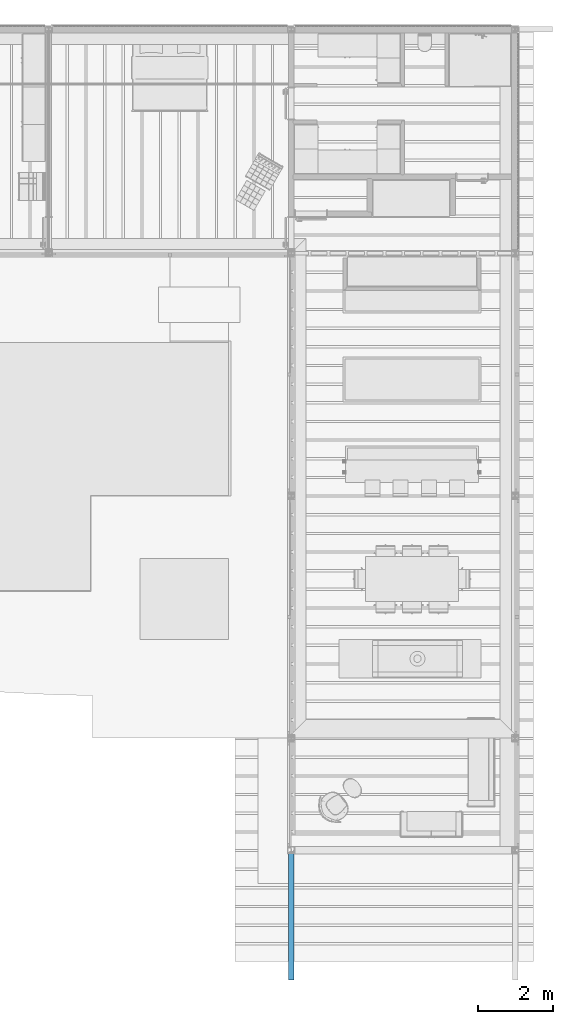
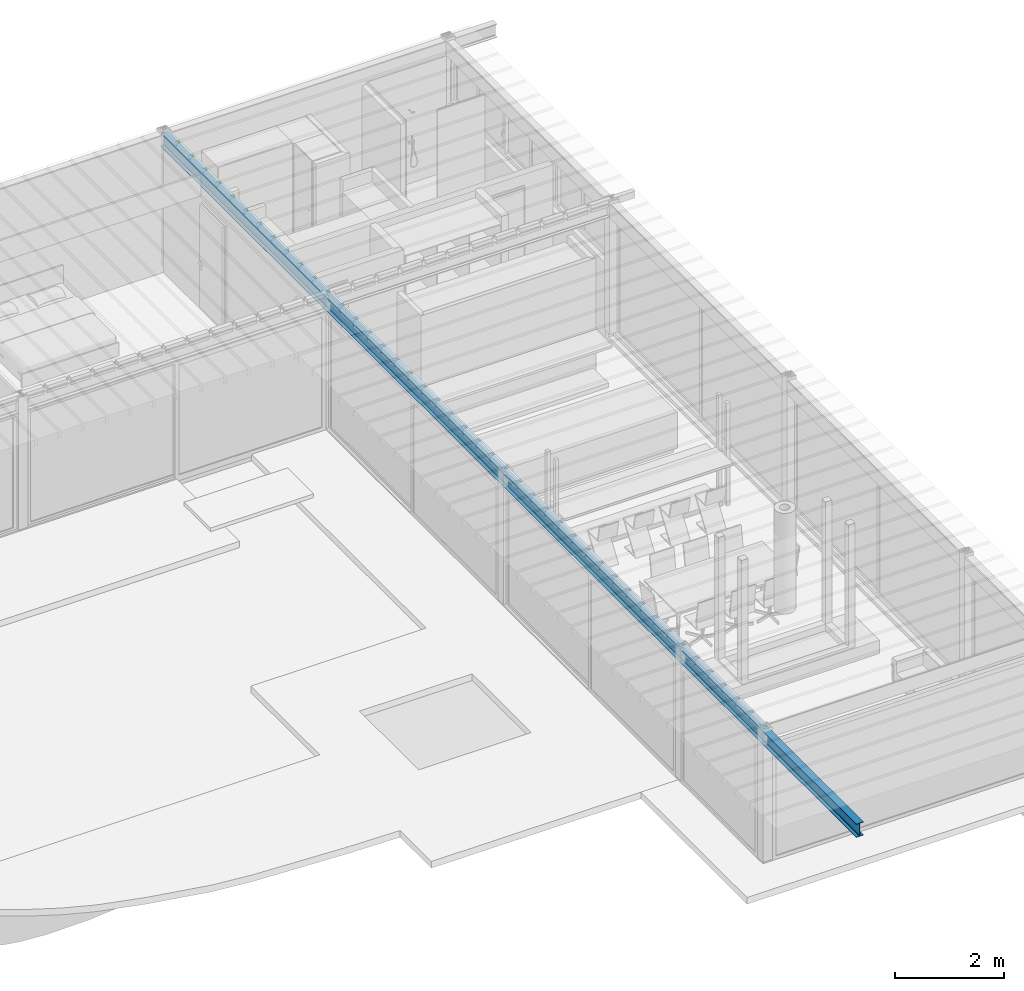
# One storey, part 4 of 28: 1 member.
"""IFC4X3_ADD2 building model written with IfcOpenShell, lengths in metres."""

from ifc_helpers import new_model, si_unit, direction, frame, frame_2d, origin_with_axes, place, context, subcontext, project, spatial, i_section, extrude, material, element, save


model = new_model("IFC4X3_ADD2")

# Units and contexts
model_context = context("Model", 3, precision=1e-05, world=origin_with_axes(), true_north=direction((0.0, 1.0)))
body_context = subcontext(model_context, "Body", "Model", "MODEL_VIEW")
ifc_project = project(units=[si_unit("LENGTHUNIT", "METRE"), si_unit("AREAUNIT", "SQUARE_METRE"), si_unit("VOLUMEUNIT", "CUBIC_METRE"), si_unit("PLANEANGLEUNIT", "RADIAN"), si_unit("TIMEUNIT", "SECOND"), si_unit("MASSUNIT", "GRAM")], contexts=[model_context])

# Site, building, storey
site_placement = place(None, origin_with_axes())
site = spatial("IfcSite", under=ifc_project, at=site_placement, Name="Site", CompositionType="ELEMENT")
building_placement = place(site_placement, origin_with_axes())
building = spatial("IfcBuilding", under=site, at=building_placement, Name="Default Building")
storey_placement = place(building_placement, frame((0.0, 0.0, -0.08), z_axis=(0.0, 0.0, 1.0), x_axis=(1.0, 0.0, 0.0)))
storey = spatial("IfcBuildingStorey", under=building, at=storey_placement, Name="Gruendung", Elevation=-0.08)

# Member
ifc_material = material(Name="Default")
member_placement = place(storey_placement, frame((19.0, 22.0, 2.98), z_axis=(0.0, -1.0, 0.0), x_axis=(-1.0, 0.0, 0.0)))
element("IfcMember", 1, at=member_placement, inside=storey, material=ifc_material, Name="Wide Flange", ObjectType="DIN - IPE 300", context=body_context, shape_type="SweptSolid", body=[
    extrude(i_section(OverallWidth=0.15, OverallDepth=0.3, WebThickness=0.007, FlangeThickness=0.011, FilletRadius=0.015, at=frame_2d((0.0, -0.15), x_axis=(1.0, 0.0))), frame((0.0, 0.3, 0.0), z_axis=(0.0, 0.0, 1.0), x_axis=(1.0, 0.0, 0.0)), (0.0, 0.0, 1.0), 25.48),
])

save(model, "model.ifc")
